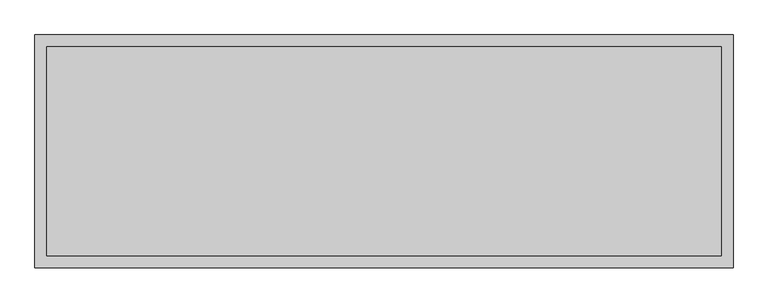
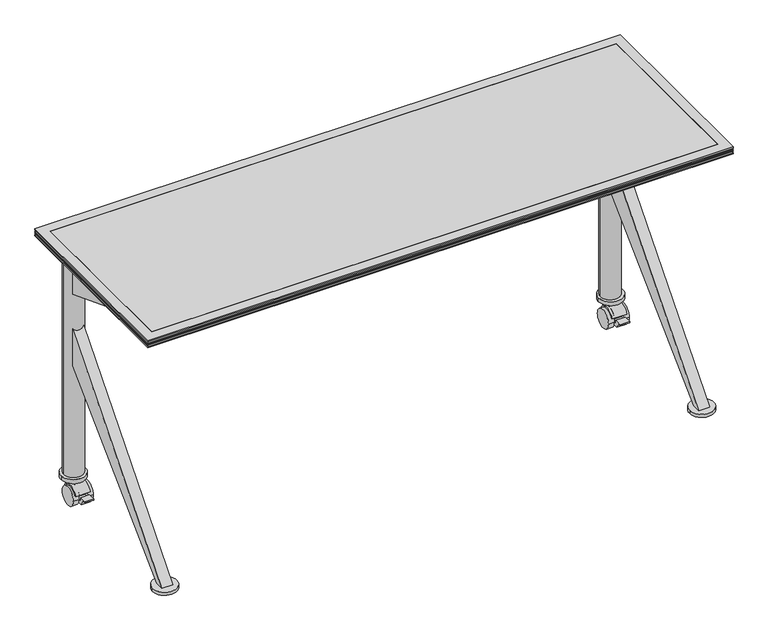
"""IFC4 building model written with IfcOpenShell, lengths in millimetres: furniture geometry, Coalesse_AM_Table_Conference_Ballet_Rectangular_KBase : Non Folding - 60L x 20W."""

import ifcopenshell
import ifcopenshell.guid

model = None  # the IFC model being written
_history = None  # IfcOwnerHistory: only IFC2X3 demands one
_inside = {}  # id of a spatial element -> (the spatial element, [elements in it])
_under = {}  # id of a project, library or spatial element -> (it, [spatial elements below it])
_declared = {}  # id of a project -> (the project, [libraries it declares])
_typed = {}  # id of a type object -> (the type object, [elements of that type])
_made_of = {}  # id of a material, layer set ... -> (it, [elements and type objects made of it])


def new_model(schema):
    """Start an empty IFC model of exactly this schema.

    Asked for "IFC4X3", IfcOpenShell would pick the latest addendum, in which some entities
    have other attributes; the version numbers below select the first issue.
    IFC2X3 requires an IfcOwnerHistory on every rooted entity: one is made here for all.
    """
    global model, _history
    if schema == "IFC4X3":
        model = ifcopenshell.file(schema_version=(4, 3, 0, 0))
    else:
        model = ifcopenshell.file(schema=schema)
    _inside.clear()
    _under.clear()
    _declared.clear()
    _typed.clear()
    _made_of.clear()
    _history = None
    if model.schema == "IFC2X3":
        org = make("IfcOrganization", Name="unknown")
        user = make(
            "IfcPersonAndOrganization",
            ThePerson=make("IfcPerson", FamilyName="unknown"),
            TheOrganization=org,
        )
        app = make(
            "IfcApplication",
            ApplicationDeveloper=org,
            Version="unknown",
            ApplicationFullName="unknown",
            ApplicationIdentifier="unknown",
        )
        _history = make(
            "IfcOwnerHistory",
            OwningUser=user,
            OwningApplication=app,
            ChangeAction="ADDED",
            CreationDate=0,
        )
    return model


def make(cls, **values):
    """One entity of the class cls with the attributes given. An attribute that is None is left unset."""
    return model.create_entity(
        cls, **{name: value for name, value in values.items() if value is not None}
    )


def rooted(cls, **values):
    """An entity with a GlobalId (a new one), such as an element, a storey or a relation."""
    return make(cls, GlobalId=ifcopenshell.guid.new(), OwnerHistory=_history, **values)


def si_unit(unit_type, name, prefix=None):
    """IfcSIUnit, for example si_unit("LENGTHUNIT", "METRE", prefix="MILLI")."""
    return make("IfcSIUnit", UnitType=unit_type, Prefix=prefix, Name=name)


def assignment(units):
    """IfcUnitAssignment: the units of a project."""
    return None if units is None else make("IfcUnitAssignment", Units=units)


def point(xyz):
    """IfcCartesianPoint."""
    return None if xyz is None else make("IfcCartesianPoint", Coordinates=xyz)


def direction(xyz):
    """IfcDirection."""
    return None if xyz is None else make("IfcDirection", DirectionRatios=xyz)


def frame(location, z_axis=None, x_axis=None):
    """IfcAxis2Placement3D, a coordinate frame: its origin and axes. An axis left out is left unset."""
    return make(
        "IfcAxis2Placement3D",
        Location=point(location),
        Axis=direction(z_axis),
        RefDirection=direction(x_axis),
    )


def frame_2d(location, x_axis=None):
    """IfcAxis2Placement2D, a coordinate frame in the plane: its origin and x axis."""
    return make(
        "IfcAxis2Placement2D", Location=point(location), RefDirection=direction(x_axis)
    )


def origin():
    """The frame at (0, 0, 0) with its axes left unset."""
    return frame((0.0, 0.0, 0.0))


def origin_with_axes():
    """The frame at (0, 0, 0) with the z axis (0, 0, 1) and the x axis (1, 0, 0) written out."""
    return frame((0.0, 0.0, 0.0), z_axis=(0.0, 0.0, 1.0), x_axis=(1.0, 0.0, 0.0))


def place(relative_to, where):
    """IfcLocalPlacement: puts the frame where relative to a parent placement (None: the world)."""
    return make(
        "IfcLocalPlacement", PlacementRelTo=relative_to, RelativePlacement=where
    )


def context(
    kind, dimensions, precision=None, world=None, true_north=None, identifier=None
):
    """IfcGeometricRepresentationContext, for example the 3D "Model" context."""
    return make(
        "IfcGeometricRepresentationContext",
        ContextIdentifier=identifier,
        ContextType=kind,
        CoordinateSpaceDimension=dimensions,
        Precision=precision,
        WorldCoordinateSystem=world,
        TrueNorth=true_north,
    )


def project(units=None, contexts=None):
    """IfcProject with its units and contexts."""
    return rooted(
        "IfcProject",
        Name="project",
        RepresentationContexts=contexts,
        UnitsInContext=assignment(units),
    )


def spatial(cls, under=None, at=None, **own):
    """A site, building, storey or space (cls), placed at a placement, below another one or the project."""
    s = rooted(cls, ObjectPlacement=at, **own)
    if under is not None:
        _under.setdefault(under.id(), (under, []))[1].append(s)
    return s


def polyline(points):
    """IfcPolyline through the points."""
    return make("IfcPolyline", Points=[point(p) for p in points])


def circle_curve(where, radius):
    """IfcCircle in the frame where."""
    return make("IfcCircle", Position=where, Radius=radius)


def trimmed(basis, trim1, trim2, sense, master):
    """IfcTrimmedCurve: the piece of a basis curve between two trims."""
    return make(
        "IfcTrimmedCurve",
        BasisCurve=basis,
        Trim1=trim1,
        Trim2=trim2,
        SenseAgreement=sense,
        MasterRepresentation=master,
    )


def segment(curve, same_sense, transition):
    """IfcCompositeCurveSegment."""
    return make(
        "IfcCompositeCurveSegment",
        Transition=transition,
        SameSense=same_sense,
        ParentCurve=curve,
    )


def composite_curve(segments, self_intersect=None):
    """IfcCompositeCurve: segments joined end to end."""
    return make("IfcCompositeCurve", Segments=segments, SelfIntersect=self_intersect)


def outline(outer, holes=None, kind="AREA"):
    """IfcArbitraryClosedProfileDef: a profile drawn as a closed curve; with holes, ...WithVoids."""
    if holes is None:
        return make("IfcArbitraryClosedProfileDef", ProfileType=kind, OuterCurve=outer)
    return make(
        "IfcArbitraryProfileDefWithVoids",
        ProfileType=kind,
        OuterCurve=outer,
        InnerCurves=holes,
    )


def extrude(swept, where, along, depth):
    """IfcExtrudedAreaSolid: the profile swept, set in the frame where, extruded along a direction by depth."""
    return make(
        "IfcExtrudedAreaSolid",
        SweptArea=swept,
        Position=where,
        ExtrudedDirection=direction(along),
        Depth=depth,
    )


def faces_of(points, faces, orient=None, outer=None):
    """IfcFace entities. A face is a list of loops; a loop is a list of indices into points, from 0.

    orient and outer hold one flag for each loop. By default every Orientation is true, the
    first loop of a face is its IfcFaceOuterBound and the others are IfcFaceBound.
    """
    made = []
    for i, loops in enumerate(faces):
        bounds = []
        for j, loop in enumerate(loops):
            is_outer = j == 0 if outer is None else outer[i][j]
            bounds.append(
                make(
                    "IfcFaceOuterBound" if is_outer else "IfcFaceBound",
                    Bound=make("IfcPolyLoop", Polygon=[points[k] for k in loop]),
                    Orientation=True if orient is None else orient[i][j],
                )
            )
        made.append(make("IfcFace", Bounds=bounds))
    return made


def faceted_brep(points, faces, orient=None, outer=None, voids=None):
    """IfcFacetedBrep: a solid bounded by flat faces; with voids (closed shells), ...WithVoids."""
    shared = [point(p) for p in points]
    hull = make("IfcClosedShell", CfsFaces=faces_of(shared, faces, orient, outer))
    if voids is None:
        return make("IfcFacetedBrep", Outer=hull)
    return make(
        "IfcFacetedBrepWithVoids",
        Outer=hull,
        Voids=[
            make(cls, CfsFaces=faces_of(shared, fs, o, b)) for cls, fs, o, b in voids
        ],
    )


def shape(context_of_items, identifier, shape_type, items):
    """IfcShapeRepresentation: the items that make up one representation, for example the "Body"."""
    return make(
        "IfcShapeRepresentation",
        ContextOfItems=context_of_items,
        RepresentationIdentifier=identifier,
        RepresentationType=shape_type,
        Items=items,
    )


def source(mapping_origin, context_of_items, identifier, shape_type, items):
    """IfcRepresentationMap: a shape defined once, which mapped items show again and again."""
    return make(
        "IfcRepresentationMap",
        MappingOrigin=mapping_origin,
        MappedRepresentation=shape(context_of_items, identifier, shape_type, items),
    )


def transform(
    local_origin,
    x_axis=None,
    y_axis=None,
    z_axis=None,
    scale=None,
    scale2=None,
    scale3=None,
    uniform=True,
):
    """IfcCartesianTransformationOperator3D, or its non-uniform kind. x_axis, y_axis, z_axis: its Axis1, 2, 3."""
    if uniform:
        return make(
            "IfcCartesianTransformationOperator3D",
            Axis1=direction(x_axis),
            Axis2=direction(y_axis),
            LocalOrigin=point(local_origin),
            Scale=scale,
            Axis3=direction(z_axis),
        )
    return make(
        "IfcCartesianTransformationOperator3DnonUniform",
        Axis1=direction(x_axis),
        Axis2=direction(y_axis),
        LocalOrigin=point(local_origin),
        Scale=scale,
        Axis3=direction(z_axis),
        Scale2=scale2,
        Scale3=scale3,
    )


def mapped(mapping_source, mapping_target):
    """IfcMappedItem: shows the shape of a source again, moved by a transform."""
    return make(
        "IfcMappedItem", MappingSource=mapping_source, MappingTarget=mapping_target
    )


def made_of(thing, what):
    """Note that an element or type object is made of a material, layer set ...; save() writes the relation."""
    if what is not None:
        _made_of.setdefault(what.id(), (what, []))[1].append(thing)
    return thing


def element(
    cls,
    number,
    at=None,
    inside=None,
    cuts=None,
    type_object=None,
    material=None,
    context=None,
    identifier="Body",
    shape_type=None,
    held_by="IfcProductDefinitionShape",
    body=None,
    shapes=None,
    **own,
):
    """One element of the class cls, such as IfcWall. Its Tag is "e" and its number.

    at: its placement. inside: the storey or other place that contains it. cuts: it is an
    opening in that element (IfcRelVoidsElement). A single representation is given by context,
    identifier, shape_type and body (its items); several are given by shapes. held_by: the class
    of the entity that holds the representations. save() writes the other relations.
    """
    e = rooted(cls, Tag="e%d" % number, ObjectPlacement=at, **own)
    if body is not None:
        shapes = [shape(context, identifier, shape_type, body)]
    if shapes is not None:
        e.Representation = make(held_by, Representations=shapes)
    if inside is not None:
        _inside.setdefault(inside.id(), (inside, []))[1].append(e)
    if cuts is not None:
        rooted(
            "IfcRelVoidsElement", RelatingBuildingElement=cuts, RelatedOpeningElement=e
        )
    if type_object is not None:
        _typed.setdefault(type_object.id(), (type_object, []))[1].append(e)
    return made_of(e, material)


def aggregate(whole, parts):
    """IfcRelAggregates: a whole, such as a stair, and the parts it consists of."""
    return rooted("IfcRelAggregates", RelatingObject=whole, RelatedObjects=parts)


def save(model, path):
    """Write the relations noted so far, then the file.

    IfcRelAggregates (storeys below a building ...), IfcRelContainedInSpatialStructure (elements
    in a storey), IfcRelDefinesByType, IfcRelAssociatesMaterial and IfcRelDeclares: one each for
    every whole, place, type object, material and project.
    """
    for whole, parts in _under.values():
        aggregate(whole, parts)
    for where, things in _inside.values():
        rooted(
            "IfcRelContainedInSpatialStructure",
            RelatedElements=things,
            RelatingStructure=where,
        )
    for kind, things in _typed.values():
        rooted("IfcRelDefinesByType", RelatedObjects=things, RelatingType=kind)
    for what, things in _made_of.values():
        rooted("IfcRelAssociatesMaterial", RelatedObjects=things, RelatingMaterial=what)
    for by, libraries in _declared.values():
        rooted("IfcRelDeclares", RelatingContext=by, RelatedDefinitions=libraries)
    model.write(path)


def furniture_e7cac80a(model_context):
    return source(origin(), model_context, "Body", "SolidModel", [
        extrude(outline(composite_curve([segment(trimmed(circle_curve(frame_2d((-699.4092495, -222.25)), 25.4), [point((-724.8092495, -222.25))], [point((-674.0092495, -222.25))], False, "CARTESIAN"), True, "CONTINUOUS"), segment(trimmed(circle_curve(frame_2d((-699.4092495, -222.25)), 25.4), [point((-674.0092495, -222.25))], [point((-724.8092495, -222.25))], False, "CARTESIAN"), True, "CONTINUOUS")], self_intersect=False)), origin_with_axes(), (0.0, 0.0, 1.0), 4.2936144),
        extrude(outline(composite_curve([segment(trimmed(circle_curve(frame_2d((698.6624629, -222.25)), 25.4), [point((673.2624629, -222.25))], [point((724.0624629, -222.25))], False, "CARTESIAN"), True, "CONTINUOUS"), segment(trimmed(circle_curve(frame_2d((698.6624629, -222.25)), 25.4), [point((724.0624629, -222.25))], [point((673.2624629, -222.25))], False, "CARTESIAN"), True, "CONTINUOUS")], self_intersect=False)), origin_with_axes(), (0.0, 0.0, 1.0), 4.2936144),
        extrude(outline(composite_curve([segment(polyline([(198.5604217, 14.7931869), (195.6491351, 16.4051117)]), True, "CONTINUOUS"), segment(trimmed(circle_curve(frame_2d((172.2336856, 24.9907393)), 24.9398531), [point((195.6491351, 16.4051117))], [point((149.7459564, 35.7749086))], True, "CARTESIAN"), True, "CONTINUOUS"), segment(polyline([(149.7459564, 35.7749086), (146.3203751, 36.8601197)]), True, "CONTINUOUS"), segment(trimmed(circle_curve(frame_2d((171.5646326, 26.7032164)), 27.2109394), [point((146.3203751, 36.8601197))], [point((183.1847122, 51.3082762))], False, "CARTESIAN"), True, "CONTINUOUS"), segment(trimmed(circle_curve(frame_2d((173.1211664, 25.8930561)), 27.3351124), [point((183.1847122, 51.3082762))], [point((198.5604217, 35.8956886))], False, "CARTESIAN"), True, "CONTINUOUS"), segment(trimmed(circle_curve(frame_2d((171.7258895, 25.3444377)), 28.8343721), [point((198.5604217, 35.8956886))], [point((198.5604217, 14.7931869))], False, "CARTESIAN"), True, "CONTINUOUS")], self_intersect=False)), frame((678.6279182, 0.0, 0.0), z_axis=(1.0, 0.0, 0.0), x_axis=(0.0, 1.0, 0.0)), (0.0, 0.0, 1.0), 37.985857),
        extrude(outline(composite_curve([segment(trimmed(circle_curve(frame_2d((172.2336856, 24.9907393)), 24.9398531), [point((147.2938325, 24.9907393))], [point((197.1735388, 24.9907393))], False, "CARTESIAN"), True, "CONTINUOUS"), segment(trimmed(circle_curve(frame_2d((172.2336856, 24.9907393)), 24.9398531), [point((197.1735388, 24.9907393))], [point((147.2938325, 24.9907393))], False, "CARTESIAN"), True, "CONTINUOUS")], self_intersect=False)), frame((669.4801992, 0.0, 0.0), z_axis=(1.0, 0.0, 0.0), x_axis=(0.0, 1.0, 0.0)), (0.0, 0.0, 1.0), 14.732),
        extrude(outline(composite_curve([segment(polyline([(183.1847122, 63.5225277), (198.5604217, 63.5225277), (198.5604217, 35.8956886)]), True, "CONTINUOUS"), segment(trimmed(circle_curve(frame_2d((171.7258895, 25.3444377)), 28.8343721), [point((198.5604217, 35.8956886))], [point((198.5604217, 14.7931869))], False, "CARTESIAN"), True, "CONTINUOUS"), segment(polyline([(198.5604217, 14.7931869), (185.095607, 22.2484025), (182.0197341, 16.6930892)]), True, "CONTINUOUS"), segment(trimmed(circle_curve(frame_2d((172.327305, 25.0010719)), 12.7658043), [point((182.0197341, 16.6930892))], [point((162.0624455, 17.4117096))], False, "CARTESIAN"), True, "CONTINUOUS"), segment(polyline([(162.0624455, 17.4117096), (136.293848, 17.4117096), (127.3223524, 31.7691038), (120.5969156, 31.7691038), (120.5969156, 35.1210973), (139.6469156, 35.1210973), (139.6469156, 25.0010719), (158.9362269, 25.0010719), (161.1998286, 32.1463658), (146.3203751, 36.8601197)]), True, "CONTINUOUS"), segment(trimmed(circle_curve(frame_2d((171.5646326, 26.7032164)), 27.2109394), [point((146.3203751, 36.8601197))], [point((183.1847122, 51.3082762))], False, "CARTESIAN"), True, "CONTINUOUS"), segment(polyline([(183.1847122, 51.3082762), (183.1847122, 63.5225277)]), True, "CONTINUOUS")], self_intersect=False)), frame((684.2121992, 0.0, 0.0), z_axis=(1.0, 0.0, 0.0), x_axis=(0.0, 1.0, 0.0)), (0.0, 0.0, 1.0), 24.5934543),
        extrude(outline(composite_curve([segment(trimmed(circle_curve(frame_2d((172.2336856, 24.9907393)), 24.9398531), [point((147.2938325, 24.9907393))], [point((197.1735388, 24.9907393))], False, "CARTESIAN"), True, "CONTINUOUS"), segment(trimmed(circle_curve(frame_2d((172.2336856, 24.9907393)), 24.9398531), [point((197.1735388, 24.9907393))], [point((147.2938325, 24.9907393))], False, "CARTESIAN"), True, "CONTINUOUS")], self_intersect=False)), frame((708.8056535, 0.0, 0.0), z_axis=(1.0, 0.0, 0.0), x_axis=(0.0, 1.0, 0.0)), (0.0, 0.0, 1.0), 14.732),
        extrude(outline(composite_curve([segment(trimmed(circle_curve(frame_2d((699.3954026, 189.7212308)), 31.75), [point((731.1454026, 189.7212308))], [point((667.6454026, 189.7212308))], False, "CARTESIAN"), True, "CONTINUOUS"), segment(trimmed(circle_curve(frame_2d((699.3954026, 189.7212308)), 31.75), [point((667.6454026, 189.7212308))], [point((731.1454026, 189.7212308))], False, "CARTESIAN"), True, "CONTINUOUS")], self_intersect=False)), frame((0.0, 0.0, 62.0397209), z_axis=(0.0, 0.0, 1.0), x_axis=(1.0, 0.0, 0.0)), (0.0, 0.0, 1.0), 10.7840801),
        extrude(outline(composite_curve([segment(polyline([(198.5604217, 14.7931869), (195.6491351, 16.4051117)]), True, "CONTINUOUS"), segment(trimmed(circle_curve(frame_2d((172.2336856, 24.9907393)), 24.9398531), [point((195.6491351, 16.4051117))], [point((149.7459564, 35.7749086))], True, "CARTESIAN"), True, "CONTINUOUS"), segment(polyline([(149.7459564, 35.7749086), (146.3203751, 36.8601197)]), True, "CONTINUOUS"), segment(trimmed(circle_curve(frame_2d((171.5646326, 26.7032164)), 27.2109394), [point((146.3203751, 36.8601197))], [point((183.1847122, 51.3082762))], False, "CARTESIAN"), True, "CONTINUOUS"), segment(trimmed(circle_curve(frame_2d((173.1211664, 25.8930561)), 27.3351124), [point((183.1847122, 51.3082762))], [point((198.5604217, 35.8956886))], False, "CARTESIAN"), True, "CONTINUOUS"), segment(trimmed(circle_curve(frame_2d((171.7258895, 25.3444377)), 28.8343721), [point((198.5604217, 35.8956886))], [point((198.5604217, 14.7931869))], False, "CARTESIAN"), True, "CONTINUOUS")], self_intersect=False)), frame((-718.0010267, 0.0, 0.0), z_axis=(1.0, 0.0, 0.0), x_axis=(0.0, 1.0, 0.0)), (0.0, 0.0, 1.0), 37.7563315),
        extrude(outline(composite_curve([segment(trimmed(circle_curve(frame_2d((172.2336856, 24.9907393)), 24.9398531), [point((147.2938325, 24.9907393))], [point((197.1735388, 24.9907393))], False, "CARTESIAN"), True, "CONTINUOUS"), segment(trimmed(circle_curve(frame_2d((172.2336856, 24.9907393)), 24.9398531), [point((197.1735388, 24.9907393))], [point((147.2938325, 24.9907393))], False, "CARTESIAN"), True, "CONTINUOUS")], self_intersect=False)), frame((-686.3822707, 0.0, 0.0), z_axis=(1.0, 0.0, 0.0), x_axis=(0.0, 1.0, 0.0)), (0.0, 0.0, 1.0), 14.732),
        extrude(outline(composite_curve([segment(polyline([(183.1847122, 63.5225277), (198.5604217, 63.5225277), (198.5604217, 35.8956886)]), True, "CONTINUOUS"), segment(trimmed(circle_curve(frame_2d((171.7258895, 25.3444377)), 28.8343721), [point((198.5604217, 35.8956886))], [point((198.5604217, 14.7931869))], False, "CARTESIAN"), True, "CONTINUOUS"), segment(polyline([(198.5604217, 14.7931869), (185.095607, 22.2484025), (182.0197341, 16.6930892)]), True, "CONTINUOUS"), segment(trimmed(circle_curve(frame_2d((172.327305, 25.0010719)), 12.7658043), [point((182.0197341, 16.6930892))], [point((162.0624455, 17.4117096))], False, "CARTESIAN"), True, "CONTINUOUS"), segment(polyline([(162.0624455, 17.4117096), (136.293848, 17.4117096), (127.3223524, 31.7691038), (120.5969156, 31.7691038), (120.5969156, 35.1210973), (139.6469156, 35.1210973), (139.6469156, 25.0010719), (158.9362269, 25.0010719), (161.1998286, 32.1463658), (146.3203751, 36.8601197)]), True, "CONTINUOUS"), segment(trimmed(circle_curve(frame_2d((171.5646326, 26.7032164)), 27.2109394), [point((146.3203751, 36.8601197))], [point((183.1847122, 51.3082762))], False, "CARTESIAN"), True, "CONTINUOUS"), segment(polyline([(183.1847122, 51.3082762), (183.1847122, 63.5225277)]), True, "CONTINUOUS")], self_intersect=False)), frame((-708.8056535, 0.0, 0.0), z_axis=(1.0, 0.0, 0.0), x_axis=(0.0, 1.0, 0.0)), (0.0, 0.0, 1.0), 22.4233828),
        extrude(outline(composite_curve([segment(trimmed(circle_curve(frame_2d((172.2336856, 24.9907393)), 24.9398531), [point((147.2938325, 24.9907393))], [point((197.1735388, 24.9907393))], False, "CARTESIAN"), True, "CONTINUOUS"), segment(trimmed(circle_curve(frame_2d((172.2336856, 24.9907393)), 24.9398531), [point((197.1735388, 24.9907393))], [point((147.2938325, 24.9907393))], False, "CARTESIAN"), True, "CONTINUOUS")], self_intersect=False)), frame((-723.5376535, 0.0, 0.0), z_axis=(1.0, 0.0, 0.0), x_axis=(0.0, 1.0, 0.0)), (0.0, 0.0, 1.0), 14.732),
        extrude(outline(composite_curve([segment(trimmed(circle_curve(frame_2d((-699.3954026, 189.7212308)), 31.75), [point((-731.1454026, 189.7212308))], [point((-667.6454026, 189.7212308))], False, "CARTESIAN"), True, "CONTINUOUS"), segment(trimmed(circle_curve(frame_2d((-699.3954026, 189.7212308)), 31.75), [point((-667.6454026, 189.7212308))], [point((-731.1454026, 189.7212308))], False, "CARTESIAN"), True, "CONTINUOUS")], self_intersect=False)), frame((0.0, 0.0, 62.0397209), z_axis=(0.0, 0.0, 1.0), x_axis=(1.0, 0.0, 0.0)), (0.0, 0.0, 1.0), 10.7840801),
        extrude(outline(composite_curve([segment(trimmed(circle_curve(frame_2d((-698.5003633, 190.5)), 25.4), [point((-723.9003633, 190.5))], [point((-673.1003633, 190.5))], False, "CARTESIAN"), True, "CONTINUOUS"), segment(trimmed(circle_curve(frame_2d((-698.5003633, 190.5)), 25.4), [point((-673.1003633, 190.5))], [point((-723.9003633, 190.5))], False, "CARTESIAN"), True, "CONTINUOUS")], self_intersect=False)), frame((0.0, 0.0, 72.823801), z_axis=(0.0, 0.0, 1.0), x_axis=(1.0, 0.0, 0.0)), (0.0, 0.0, 1.0), 625.6762232),
        extrude(outline(composite_curve([segment(trimmed(circle_curve(frame_2d((698.5003633, 190.5)), 25.4), [point((673.1003633, 190.5))], [point((723.9003633, 190.5))], False, "CARTESIAN"), True, "CONTINUOUS"), segment(trimmed(circle_curve(frame_2d((698.5003633, 190.5)), 25.4), [point((723.9003633, 190.5))], [point((673.1003633, 190.5))], False, "CARTESIAN"), True, "CONTINUOUS")], self_intersect=False)), frame((0.0, 0.0, 72.823801), z_axis=(0.0, 0.0, 1.0), x_axis=(1.0, 0.0, 0.0)), (0.0, 0.0, 1.0), 625.6762232),
        extrude(outline(polyline([(169.4656271, 577.7388634), (-142.874901, 698.5000242), (-111.124901, 698.5000242), (169.4656271, 641.3500242), (169.4656271, 577.7388634)])), frame((-712.8007845, 0.0, 0.0), z_axis=(1.0, 0.0, 0.0), x_axis=(0.0, 1.0, 0.0)), (0.0, 0.0, 1.0), 28.5877899),
        extrude(outline(polyline([(169.4656271, 381.0), (-211.1375951, 12.7), (-233.3624013, 12.7), (169.4656271, 482.7111245), (169.4656271, 381.0)])), frame((-712.8007845, 0.0, 0.0), z_axis=(1.0, 0.0, 0.0), x_axis=(0.0, 1.0, 0.0)), (0.0, 0.0, 1.0), 28.5877899),
        extrude(outline(polyline([(169.4656271, 577.7388634), (-142.874901, 698.5000242), (-111.124901, 698.5000242), (169.4656271, 641.3500242), (169.4656271, 577.7388634)])), frame((684.2121992, 0.0, 0.0), z_axis=(1.0, 0.0, 0.0), x_axis=(0.0, 1.0, 0.0)), (0.0, 0.0, 1.0), 28.575),
        extrude(outline(polyline([(169.4656271, 381.0), (-211.1375951, 12.7), (-233.3624013, 12.7), (169.4656271, 482.7111245), (169.4656271, 381.0)])), frame((684.2121992, 0.0, 0.0), z_axis=(1.0, 0.0, 0.0), x_axis=(0.0, 1.0, 0.0)), (0.0, 0.0, 1.0), 28.575),
        extrude(outline(composite_curve([segment(trimmed(circle_curve(frame_2d((-699.4092495, -222.25)), 31.75), [point((-731.1592495, -222.25))], [point((-667.6592495, -222.25))], False, "CARTESIAN"), True, "CONTINUOUS"), segment(trimmed(circle_curve(frame_2d((-699.4092495, -222.25)), 31.75), [point((-667.6592495, -222.25))], [point((-731.1592495, -222.25))], False, "CARTESIAN"), True, "CONTINUOUS")], self_intersect=False)), frame((0.0, 0.0, 4.2936144), z_axis=(0.0, 0.0, 1.0), x_axis=(1.0, 0.0, 0.0)), (0.0, 0.0, 1.0), 8.4063856),
        extrude(outline(composite_curve([segment(trimmed(circle_curve(frame_2d((698.6624629, -222.25)), 31.75), [point((666.9124629, -222.25))], [point((730.4124629, -222.25))], False, "CARTESIAN"), True, "CONTINUOUS"), segment(trimmed(circle_curve(frame_2d((698.6624629, -222.25)), 31.75), [point((730.4124629, -222.25))], [point((666.9124629, -222.25))], False, "CARTESIAN"), True, "CONTINUOUS")], self_intersect=False)), frame((0.0, 0.0, 4.2936144), z_axis=(0.0, 0.0, 1.0), x_axis=(1.0, 0.0, 0.0)), (0.0, 0.0, 1.0), 8.4063856),
        faceted_brep([(-762.0003633, 254.0, 704.85), (-736.6003876, 228.6000242, 698.5000242), (-736.6003876, -228.5999516, 698.5000242), (-762.0003633, -253.9999273, 704.85), (-762.0003633, 254.0, 708.0250242), (-762.0003633, -253.9999273, 708.0250242), (-758.8253755, 250.8250121, 709.6125), (-758.8253755, -250.8249394, 709.6125), (-762.0003633, 254.0, 711.1999758), (-762.0003633, -253.9999273, 711.1999758), (-758.8253755, 250.8250121, 712.7875242), (-758.8253755, -250.8249394, 712.7875242), (-762.0003633, 254.0, 714.375), (-762.0003633, -253.9999273, 714.375), (-758.8253755, 250.8250121, 715.9624758), (-758.8253755, -250.8249394, 715.9624758), (-762.0003633, 254.0, 717.5500242), (-762.0003633, -253.9999273, 717.5500242), (-758.8253755, 250.8250121, 719.1375), (-758.8253755, -250.8249394, 719.1375), (-762.0003633, 254.0, 720.7249758), (-762.0003633, -253.9999273, 720.7249758), (-762.0003633, 254.0, 723.9), (-762.0003633, -253.9999273, 723.9), (-736.6003876, 228.6000242, 723.9), (-736.6003876, -228.5999516, 723.9), (736.5998062, -228.5999516, 698.5000242), (761.999782, -253.9999273, 704.85), (761.999782, -253.9999273, 708.0250242), (758.8247941, -250.8249394, 709.6125), (761.999782, -253.9999273, 711.1999758), (758.8247941, -250.8249394, 712.7875242), (761.999782, -253.9999273, 714.375), (758.8247941, -250.8249394, 715.9624758), (761.999782, -253.9999273, 717.5500242), (758.8247941, -250.8249394, 719.1375), (761.999782, -253.9999273, 720.7249758), (761.999782, -253.9999273, 723.9), (736.5998062, -228.5999516, 723.9), (736.5998062, 228.6000242, 698.5000242), (761.999782, 254.0, 704.85), (761.999782, 254.0, 708.0250242), (758.8247941, 250.8250121, 709.6125), (761.999782, 254.0, 711.1999758), (758.8247941, 250.8250121, 712.7875242), (761.999782, 254.0, 714.375), (758.8247941, 250.8250121, 715.9624758), (761.999782, 254.0, 717.5500242), (758.8247941, 250.8250121, 719.1375), (761.999782, 254.0, 720.7249758), (761.999782, 254.0, 723.9), (736.5998062, 228.6000242, 723.9)], [[[0, 1, 2, 3]], [[4, 0, 3, 5]], [[6, 4, 5, 7]], [[8, 6, 7, 9]], [[10, 8, 9, 11]], [[12, 10, 11, 13]], [[14, 12, 13, 15]], [[16, 14, 15, 17]], [[18, 16, 17, 19]], [[20, 18, 19, 21]], [[22, 20, 21, 23]], [[1, 24, 25, 2]], [[3, 2, 26, 27]], [[5, 3, 27, 28]], [[7, 5, 28, 29]], [[9, 7, 29, 30]], [[11, 9, 30, 31]], [[13, 11, 31, 32]], [[15, 13, 32, 33]], [[17, 15, 33, 34]], [[19, 17, 34, 35]], [[21, 19, 35, 36]], [[23, 21, 36, 37]], [[2, 25, 38, 26]], [[27, 26, 39, 40]], [[28, 27, 40, 41]], [[29, 28, 41, 42]], [[30, 29, 42, 43]], [[31, 30, 43, 44]], [[32, 31, 44, 45]], [[33, 32, 45, 46]], [[34, 33, 46, 47]], [[35, 34, 47, 48]], [[36, 35, 48, 49]], [[37, 36, 49, 50]], [[26, 38, 51, 39]], [[40, 39, 1, 0]], [[41, 40, 0, 4]], [[42, 41, 4, 6]], [[43, 42, 6, 8]], [[44, 43, 8, 10]], [[45, 44, 10, 12]], [[46, 45, 12, 14]], [[47, 46, 14, 16]], [[48, 47, 16, 18]], [[49, 48, 18, 20]], [[50, 49, 20, 22]], [[23, 37, 50, 22], [24, 51, 38, 25]], [[39, 51, 24, 1]]]),
        extrude(outline(polyline([(736.5998062, 228.6000242), (736.5998062, -228.5999516), (-736.6003876, -228.5999516), (-736.6003876, 228.6000242), (736.5998062, 228.6000242)])), frame((0.0, 0.0, 704.85), z_axis=(0.0, 0.0, 1.0), x_axis=(1.0, 0.0, 0.0)), (0.0, 0.0, 1.0), 19.05),
    ])


if __name__ == "__main__":
    model = new_model("IFC4")
    model_context = context("Model", 3, world=origin())
    ifc_project = project(units=[si_unit("LENGTHUNIT", "METRE", prefix="MILLI")], contexts=[model_context])
    site = spatial("IfcSite", under=ifc_project)
    building = spatial("IfcBuilding", under=site)
    placement = place(None, origin())
    furniture_shape = furniture_e7cac80a(model_context)
    element("IfcFurniture", 1, ObjectType="Coalesse_AM_Table_Conference_Ballet_Rectangular_KBase : Non Folding - 60L x 20W", at=placement, inside=building, context=model_context, shape_type="MappedRepresentation", body=[
        mapped(furniture_shape, transform((0.0, 0.0, 0.0), x_axis=(1.0, 0.0, 0.0), y_axis=(0.0, 1.0, 0.0), z_axis=(0.0, 0.0, 1.0))),
    ])
    save(model, "model.ifc")
